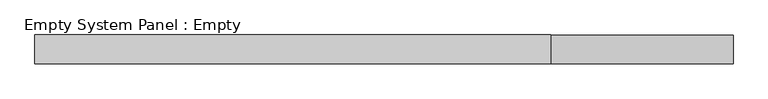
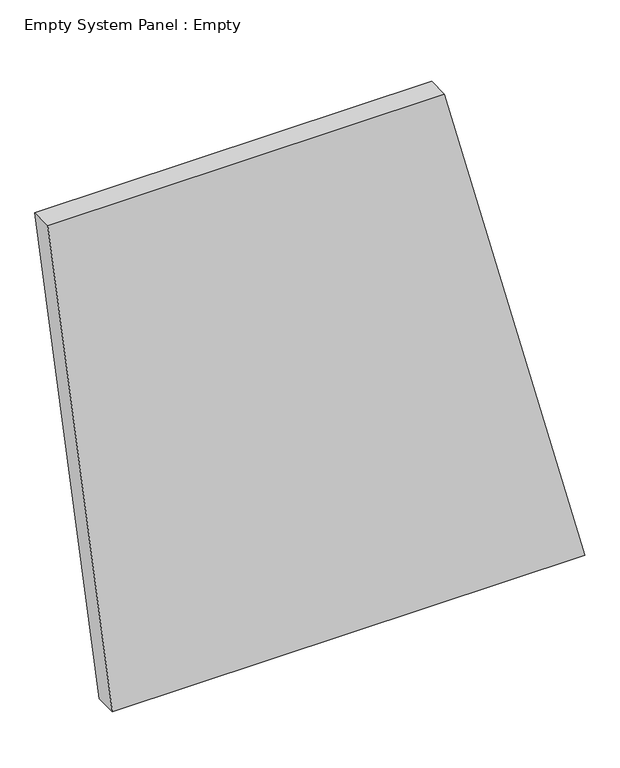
"""IFC4 building model written with IfcOpenShell, lengths in millimetres: plate geometry, Empty System Panel : Empty."""

from ifc_helpers import new_model, si_unit, frame, origin, place, context, project, spatial, polyline, outline, extrude, source, transform, mapped, element, save


def empty_system_panel_empty_82868915(model_context):
    return source(origin(), model_context, "Body", "SweptSolid", [
        extrude(outline(polyline([(0.0, -930.5009098), (0.0, 1224.569988), (2446.5159713, 584.0967512), (2445.5268463, -1224.569988), (0.0, -930.5009098)])), frame((0.0, -50.8, 0.0), z_axis=(0.0, 1.0, 0.0), x_axis=(0.0, 0.0, 1.0)), (0.0, 0.0, 1.0), 101.6),
    ])


if __name__ == "__main__":
    model = new_model("IFC4")
    model_context = context("Model", 3, world=origin())
    ifc_project = project(units=[si_unit("LENGTHUNIT", "METRE", prefix="MILLI")], contexts=[model_context])
    site = spatial("IfcSite", under=ifc_project)
    building = spatial("IfcBuilding", under=site)
    placement = place(None, origin())
    empty_system_panel_empty_shape = empty_system_panel_empty_82868915(model_context)
    element("IfcPlate", 1, ObjectType="Empty System Panel : Empty", at=placement, inside=building, context=model_context, shape_type="MappedRepresentation", body=[
        mapped(empty_system_panel_empty_shape, transform((0.0, 0.0, 0.0), x_axis=(1.0, 0.0, 0.0), y_axis=(0.0, 1.0, 0.0), z_axis=(0.0, 0.0, 1.0))),
    ])
    save(model, "model.ifc")
